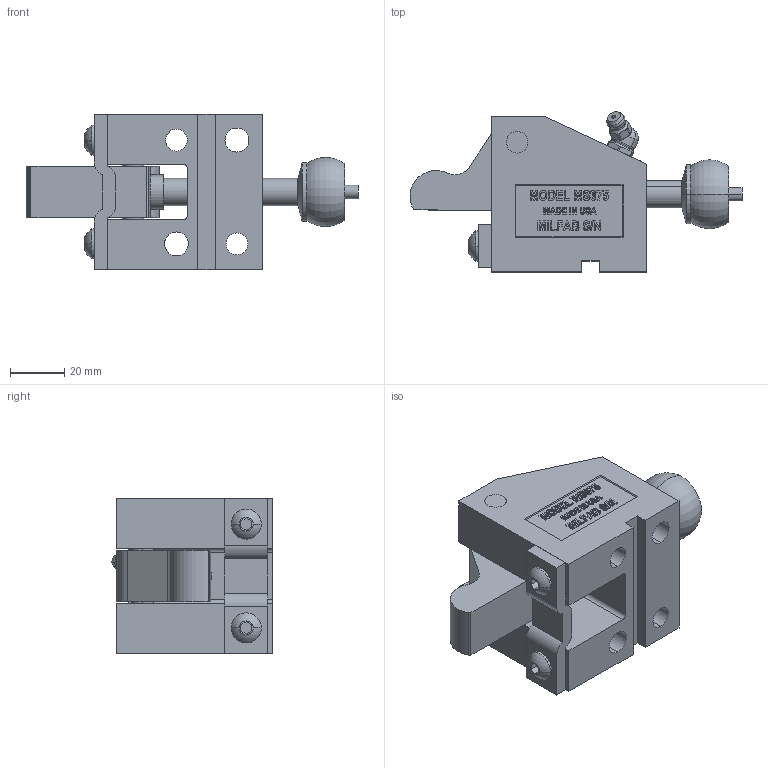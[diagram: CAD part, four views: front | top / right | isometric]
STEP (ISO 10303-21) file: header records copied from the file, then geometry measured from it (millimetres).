
FILE_DESCRIPTION (( 'STEP AP214' ), '1' );
FILE_NAME ('MS37545-C.STEP', '2014-01-07T18:53:16', ( 'user' ), ( '' ), 'SwSTEP 2.0', 'SolidWorks 2009', '' );
FILE_SCHEMA (( 'AUTOMOTIVE_DESIGN' ));
Length unit declared in the file: inch
Products named in the file (11): MS37545-C; M-I-375-POINT; MS375-PUNCH; MS375-BODY; 375 PIVOT PIN; 375 STRIPPER CLOSED; 375-WASHER; GREASE ZERK; 1-4 SCREW; 375-I-STRAP; 375-OFFSET TRIGGER
Assembly tree (11 placements, depth 2):
  MS37545-C
    375-OFFSET TRIGGER
    1-4 SCREW  x2
    GREASE ZERK
    375-I-STRAP
    375-WASHER
    M-I-375-POINT
    375 PIVOT PIN
    MS375-PUNCH
    MS375-BODY
    375 STRIPPER CLOSED
Bounding box: 121.9 x 58.85 x 57.15 mm (x, y, z)
Volume: 148953.9 mm3; surface area: 44763.4 mm2
Topology: 11 solids, 11 shells, 591 faces, 1534 edges, 1009 vertices
Faces by surface type: plane 344, bspline 99, cylinder 94, cone 28, torus 22, sphere 4
Entity records: 23620 total; most frequent: CARTESIAN_POINT 9715, ORIENTED_EDGE 2984, DIRECTION 2386, EDGE_CURVE 1492, VERTEX_POINT 983, VECTOR 980, LINE 980, AXIS2_PLACEMENT_3D 703
